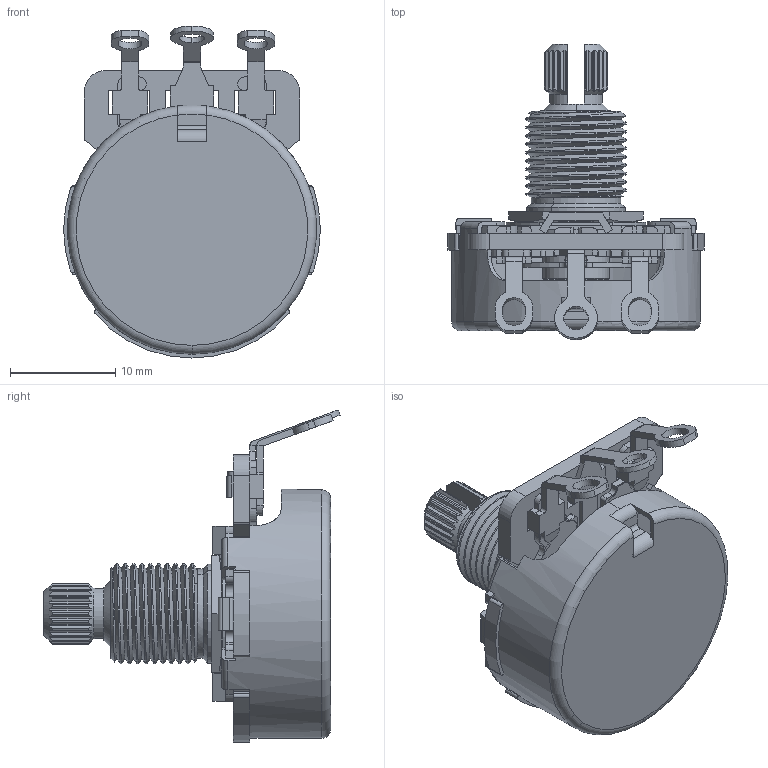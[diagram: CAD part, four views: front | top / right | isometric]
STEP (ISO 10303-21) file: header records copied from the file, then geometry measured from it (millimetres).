
FILE_DESCRIPTION (( 'STEP AP214' ), '1' );
FILE_NAME ('450GT35K254A2S.STEP', '2019-05-27T02:26:47', ( '' ), ( '' ), 'SwSTEP 2.0', 'SolidWorks 2019', '' );
FILE_SCHEMA (( 'AUTOMOTIVE_DESIGN' ));
Length unit declared in the file: millimetre
Products named in the file (10): 450F-23 for T450AEDF; 450 element; 450B-6; 13M450S9257T; 45C-2Z-no lug; 450D-17 for T450AEDF; T450AEDF(For 104G); P45Q(stamp for 450GT36K504B2S)_Flat Bottom_45Q54 withFenderTradeMark_NewDetentSetting_07102012; 450A-104G; 450GT35K254A2S
Assembly tree (10 placements, depth 3):
  450GT35K254A2S
    P45Q(stamp for 450GT36K504B2S)_Flat Bottom_45Q54 withFenderTradeMark_NewDetentSetting_07102012
    T450AEDF(For 104G)
      450A-104G
      450D-17 for T450AEDF
      450 element
      450F-23 for T450AEDF  x2
    45C-2Z-no lug
    450B-6
    13M450S9257T
Bounding box: 24.33 x 28.08 x 31.47 mm (x, y, z)
Volume: 2650.2 mm3; surface area: 6604.6 mm2
Topology: 9 solids, 9 shells, 754 faces, 2123 edges, 1387 vertices
Faces by surface type: plane 447, cylinder 260, cone 27, torus 18, bspline 2
Entity records: 24323 total; most frequent: CARTESIAN_POINT 6074, ORIENTED_EDGE 3880, DIRECTION 3627, EDGE_CURVE 1940, VERTEX_POINT 1270, AXIS2_PLACEMENT_3D 1236, VECTOR 1155, LINE 1155
